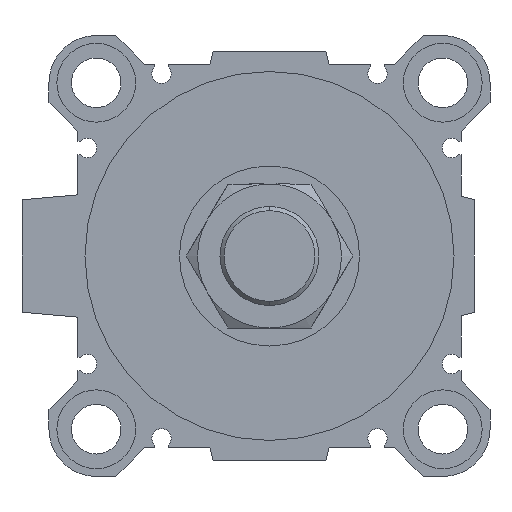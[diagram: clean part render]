
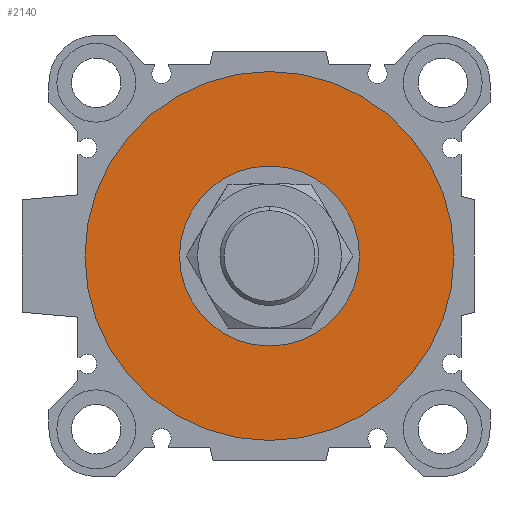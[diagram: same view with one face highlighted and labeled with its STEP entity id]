
A CAD part, left-side view. The second image highlights one B-rep face of the part: STEP entity #2140.
In plain terms, the highlighted planar face has unit normal (-1, 0, 0).
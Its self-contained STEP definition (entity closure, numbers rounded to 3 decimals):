
#174 = AXIS2_PLACEMENT_3D ( 'NONE', #1621, #2846, #5085 ) ;
#225 = DIRECTION ( 'NONE',  ( 1., 0., 0. ) ) ;
#317 = DIRECTION ( 'NONE',  ( 1., 0., 0. ) ) ;
#705 = DIRECTION ( 'NONE',  ( 1., 0., 0. ) ) ;
#907 = DIRECTION ( 'NONE',  ( 0., 0., -1. ) ) ;
#989 = EDGE_CURVE ( 'NONE', #2450, #6335, #6051, .T. ) ;
#1031 = AXIS2_PLACEMENT_3D ( 'NONE', #3052, #225, #6670 ) ;
#1048 = DIRECTION ( 'NONE',  ( 0., 1., 0. ) ) ;
#1140 = CARTESIAN_POINT ( 'NONE',  ( 5., 0., -20. ) ) ;
#1241 = AXIS2_PLACEMENT_3D ( 'NONE', #3884, #317, #1048 ) ;
#1376 = CARTESIAN_POINT ( 'NONE',  ( 5., 0., 20. ) ) ;
#1582 = FACE_BOUND ( 'NONE', #6200, .T. ) ;
#1621 = CARTESIAN_POINT ( 'NONE',  ( 5., 0., 0. ) ) ;
#2140 = ADVANCED_FACE ( 'NONE', ( #2162, #1582 ), #5731, .F. ) ;
#2162 = FACE_OUTER_BOUND ( 'NONE', #2387, .T. ) ;
#2346 = ORIENTED_EDGE ( 'NONE', *, *, #3046, .F. ) ;
#2387 = EDGE_LOOP ( 'NONE', ( #2346, #4349 ) ) ;
#2450 = VERTEX_POINT ( 'NONE', #1376 ) ;
#2509 = CARTESIAN_POINT ( 'NONE',  ( 5., 0., -41. ) ) ;
#2612 = CIRCLE ( 'NONE', #5555, 41. ) ;
#2632 = CARTESIAN_POINT ( 'NONE',  ( 5., 0., 0. ) ) ;
#2846 = DIRECTION ( 'NONE',  ( 1., 0., 0. ) ) ;
#3046 = EDGE_CURVE ( 'NONE', #3635, #4938, #2612, .T. ) ;
#3052 = CARTESIAN_POINT ( 'NONE',  ( 5., 0., 0. ) ) ;
#3527 = ORIENTED_EDGE ( 'NONE', *, *, #3738, .T. ) ;
#3635 = VERTEX_POINT ( 'NONE', #4055 ) ;
#3738 = EDGE_CURVE ( 'NONE', #6335, #2450, #3797, .T. ) ;
#3797 = CIRCLE ( 'NONE', #4428, 20. ) ;
#3884 = CARTESIAN_POINT ( 'NONE',  ( 5., 0., 0. ) ) ;
#4055 = CARTESIAN_POINT ( 'NONE',  ( 5., 0., 41. ) ) ;
#4349 = ORIENTED_EDGE ( 'NONE', *, *, #4964, .F. ) ;
#4412 = DIRECTION ( 'NONE',  ( 1., 0., 0. ) ) ;
#4428 = AXIS2_PLACEMENT_3D ( 'NONE', #4925, #705, #7258 ) ;
#4925 = CARTESIAN_POINT ( 'NONE',  ( 5., 0., 0. ) ) ;
#4938 = VERTEX_POINT ( 'NONE', #2509 ) ;
#4964 = EDGE_CURVE ( 'NONE', #4938, #3635, #5562, .T. ) ;
#5085 = DIRECTION ( 'NONE',  ( 0., 0., -1. ) ) ;
#5555 = AXIS2_PLACEMENT_3D ( 'NONE', #2632, #4412, #907 ) ;
#5562 = CIRCLE ( 'NONE', #174, 41. ) ;
#5731 = PLANE ( 'NONE',  #1241 ) ;
#6051 = CIRCLE ( 'NONE', #1031, 20. ) ;
#6200 = EDGE_LOOP ( 'NONE', ( #6330, #3527 ) ) ;
#6330 = ORIENTED_EDGE ( 'NONE', *, *, #989, .T. ) ;
#6335 = VERTEX_POINT ( 'NONE', #1140 ) ;
#6670 = DIRECTION ( 'NONE',  ( 0., 0., -1. ) ) ;
#7258 = DIRECTION ( 'NONE',  ( 0., 0., -1. ) ) ;
